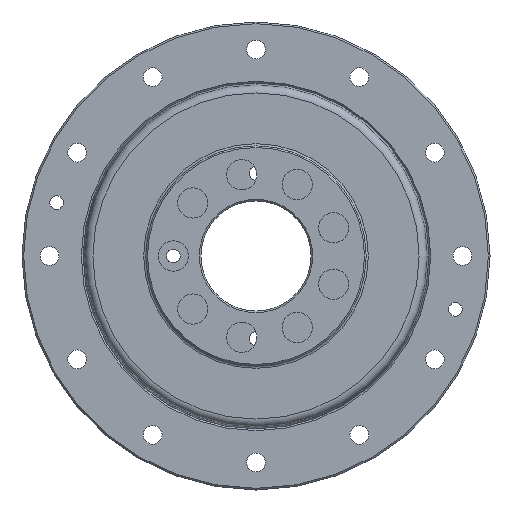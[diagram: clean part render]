
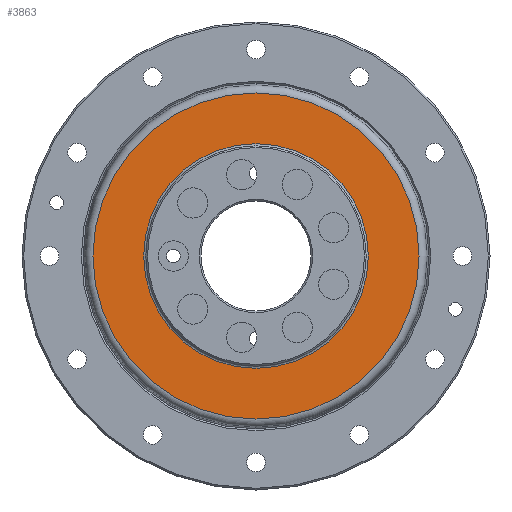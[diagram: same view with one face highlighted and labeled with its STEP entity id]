
A CAD part, left-side view. The second image highlights one B-rep face of the part: STEP entity #3863.
In plain terms, the highlighted planar face has unit normal (-1, 0, 0).
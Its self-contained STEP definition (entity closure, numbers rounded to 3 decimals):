
#50 = EDGE_LOOP ( 'NONE', ( #5306 ) ) ;
#181 = DIRECTION ( 'NONE',  ( 0., 0., 1. ) ) ;
#305 = ORIENTED_EDGE ( 'NONE', *, *, #1825, .T. ) ;
#333 = CARTESIAN_POINT ( 'NONE',  ( 1.6, 29.617, 0. ) ) ;
#449 = AXIS2_PLACEMENT_3D ( 'NONE', #3999, #3482, #181 ) ;
#679 = AXIS2_PLACEMENT_3D ( 'NONE', #333, #3668, #831 ) ;
#753 = CARTESIAN_POINT ( 'NONE',  ( 1.6, 0., 0. ) ) ;
#831 = DIRECTION ( 'NONE',  ( 0., 0., -1. ) ) ;
#993 = EDGE_CURVE ( 'NONE', #4459, #4459, #3240, .T. ) ;
#1784 = FACE_OUTER_BOUND ( 'NONE', #1897, .T. ) ;
#1825 = EDGE_CURVE ( 'NONE', #2571, #2571, #2113, .T. ) ;
#1897 = EDGE_LOOP ( 'NONE', ( #305 ) ) ;
#2113 = CIRCLE ( 'NONE', #449, 29.617 ) ;
#2148 = CARTESIAN_POINT ( 'NONE',  ( 1.6, 0., 20.4 ) ) ;
#2571 = VERTEX_POINT ( 'NONE', #4093 ) ;
#3240 = CIRCLE ( 'NONE', #3996, 20.4 ) ;
#3482 = DIRECTION ( 'NONE',  ( -1., 0., 0. ) ) ;
#3655 = DIRECTION ( 'NONE',  ( -1., 0., 0. ) ) ;
#3668 = DIRECTION ( 'NONE',  ( 1., 0., 0. ) ) ;
#3863 = ADVANCED_FACE ( 'NONE', ( #5728, #1784 ), #5578, .F. ) ;
#3996 = AXIS2_PLACEMENT_3D ( 'NONE', #753, #3655, #5461 ) ;
#3999 = CARTESIAN_POINT ( 'NONE',  ( 1.6, 0., 0. ) ) ;
#4093 = CARTESIAN_POINT ( 'NONE',  ( 1.6, 0., 29.617 ) ) ;
#4459 = VERTEX_POINT ( 'NONE', #2148 ) ;
#5306 = ORIENTED_EDGE ( 'NONE', *, *, #993, .F. ) ;
#5461 = DIRECTION ( 'NONE',  ( 0., 0., 1. ) ) ;
#5578 = PLANE ( 'NONE',  #679 ) ;
#5728 = FACE_BOUND ( 'NONE', #50, .T. ) ;
